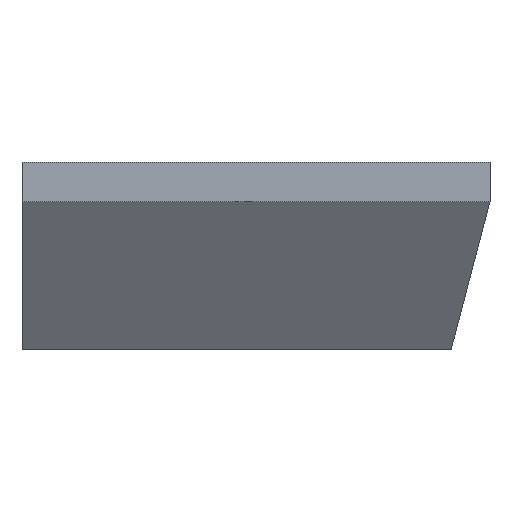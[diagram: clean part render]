
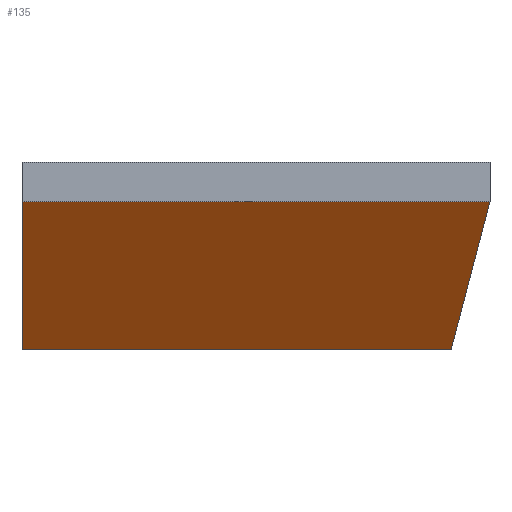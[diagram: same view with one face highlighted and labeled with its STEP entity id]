
A CAD part, front view. The second image highlights one B-rep face of the part: STEP entity #135.
In plain terms, the highlighted planar face has unit normal (0, -0.819, -0.574).
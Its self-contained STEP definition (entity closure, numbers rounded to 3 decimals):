
#21 = EDGE_CURVE('',#22,#24,#26,.T.);
#22 = VERTEX_POINT('',#23);
#23 = CARTESIAN_POINT('',(0.,0.,9.488));
#24 = VERTEX_POINT('',#25);
#25 = CARTESIAN_POINT('',(30.,0.,9.488));
#26 = SURFACE_CURVE('',#27,(#31,#42),.PCURVE_S1.);
#27 = LINE('',#28,#29);
#28 = CARTESIAN_POINT('',(-12.5,0.,9.488));
#29 = VECTOR('',#30,1.);
#30 = DIRECTION('',(1.,0.,0.));
#31 = PCURVE('',#32,#37);
#32 = PLANE('',#33);
#33 = AXIS2_PLACEMENT_3D('',#34,#35,#36);
#34 = CARTESIAN_POINT('',(0.,0.,0.));
#35 = DIRECTION('',(0.,1.,0.));
#36 = DIRECTION('',(1.,0.,0.));
#37 = DEFINITIONAL_REPRESENTATION('',(#38),#41);
#38 = B_SPLINE_CURVE_WITH_KNOTS('',1,(#39,#40),.UNSPECIFIED.,.F.,.F.,(2,
    2),(12.5,42.5),.PIECEWISE_BEZIER_KNOTS.);
#39 = CARTESIAN_POINT('',(0.,-9.488));
#40 = CARTESIAN_POINT('',(30.,-9.488));
#41 = ( GEOMETRIC_REPRESENTATION_CONTEXT(2) 
PARAMETRIC_REPRESENTATION_CONTEXT() REPRESENTATION_CONTEXT('2D SPACE',''
  ) );
#42 = PCURVE('',#43,#48);
#43 = PLANE('',#44);
#44 = AXIS2_PLACEMENT_3D('',#45,#46,#47);
#45 = CARTESIAN_POINT('',(-25.,-6.39,18.616));
#46 = DIRECTION('',(0.,0.819,0.573));
#47 = DIRECTION('',(0.,0.573,-0.819));
#48 = DEFINITIONAL_REPRESENTATION('',(#49),#52);
#49 = B_SPLINE_CURVE_WITH_KNOTS('',1,(#50,#51),.UNSPECIFIED.,.F.,.F.,(2,
    2),(12.5,42.5),.PIECEWISE_BEZIER_KNOTS.);
#50 = CARTESIAN_POINT('',(11.143,-25.));
#51 = CARTESIAN_POINT('',(11.143,-55.));
#52 = ( GEOMETRIC_REPRESENTATION_CONTEXT(2) 
PARAMETRIC_REPRESENTATION_CONTEXT() REPRESENTATION_CONTEXT('2D SPACE',''
  ) );
#70 = PLANE('',#71);
#71 = AXIS2_PLACEMENT_3D('',#72,#73,#74);
#72 = CARTESIAN_POINT('',(0.,80.,0.));
#73 = DIRECTION('',(1.,0.,-0.));
#74 = DIRECTION('',(0.,-1.,0.));
#124 = PLANE('',#125);
#125 = AXIS2_PLACEMENT_3D('',#126,#127,#128);
#126 = CARTESIAN_POINT('',(30.,0.,0.));
#127 = DIRECTION('',(-0.936,-0.351,0.));
#128 = DIRECTION('',(-0.351,0.936,0.));
#135 = ADVANCED_FACE('',(#136),#43,.F.);
#136 = FACE_BOUND('',#137,.F.);
#137 = EDGE_LOOP('',(#138,#139,#160,#186));
#138 = ORIENTED_EDGE('',*,*,#21,.T.);
#139 = ORIENTED_EDGE('',*,*,#140,.T.);
#140 = EDGE_CURVE('',#24,#141,#143,.T.);
#141 = VERTEX_POINT('',#142);
#142 = CARTESIAN_POINT('',(27.51,6.641,0.));
#143 = SURFACE_CURVE('',#144,(#148,#154),.PCURVE_S1.);
#144 = LINE('',#145,#146);
#145 = CARTESIAN_POINT('',(29.131,2.318,6.176)
  );
#146 = VECTOR('',#147,1.);
#147 = DIRECTION('',(-0.21,0.561,-0.801));
#148 = PCURVE('',#43,#149);
#149 = DEFINITIONAL_REPRESENTATION('',(#150),#153);
#150 = B_SPLINE_CURVE_WITH_KNOTS('',1,(#151,#152),.UNSPECIFIED.,.F.,.F.,
  (2,2),(-4.134,7.712),.PIECEWISE_BEZIER_KNOTS.);
#151 = CARTESIAN_POINT('',(11.143,-55.));
#152 = CARTESIAN_POINT('',(22.724,-52.51));
#153 = ( GEOMETRIC_REPRESENTATION_CONTEXT(2) 
PARAMETRIC_REPRESENTATION_CONTEXT() REPRESENTATION_CONTEXT('2D SPACE',''
  ) );
#154 = PCURVE('',#124,#155);
#155 = DEFINITIONAL_REPRESENTATION('',(#156),#159);
#156 = B_SPLINE_CURVE_WITH_KNOTS('',1,(#157,#158),.UNSPECIFIED.,.F.,.F.,
  (2,2),(-4.134,7.712),.PIECEWISE_BEZIER_KNOTS.);
#157 = CARTESIAN_POINT('',(0.,-9.488));
#158 = CARTESIAN_POINT('',(7.093,0.));
#159 = ( GEOMETRIC_REPRESENTATION_CONTEXT(2) 
PARAMETRIC_REPRESENTATION_CONTEXT() REPRESENTATION_CONTEXT('2D SPACE',''
  ) );
#160 = ORIENTED_EDGE('',*,*,#161,.T.);
#161 = EDGE_CURVE('',#141,#162,#164,.T.);
#162 = VERTEX_POINT('',#163);
#163 = CARTESIAN_POINT('',(0.,6.641,0.));
#164 = SURFACE_CURVE('',#165,(#169,#175),.PCURVE_S1.);
#165 = LINE('',#166,#167);
#166 = CARTESIAN_POINT('',(-8.07,6.641,
    0.));
#167 = VECTOR('',#168,1.);
#168 = DIRECTION('',(-1.,0.,0.));
#169 = PCURVE('',#43,#170);
#170 = DEFINITIONAL_REPRESENTATION('',(#171),#174);
#171 = B_SPLINE_CURVE_WITH_KNOTS('',1,(#172,#173),.UNSPECIFIED.,.F.,.F.,
  (2,2),(-38.07,-8.07),.PIECEWISE_BEZIER_KNOTS.);
#172 = CARTESIAN_POINT('',(22.724,-55.));
#173 = CARTESIAN_POINT('',(22.724,-25.));
#174 = ( GEOMETRIC_REPRESENTATION_CONTEXT(2) 
PARAMETRIC_REPRESENTATION_CONTEXT() REPRESENTATION_CONTEXT('2D SPACE',''
  ) );
#175 = PCURVE('',#176,#181);
#176 = PLANE('',#177);
#177 = AXIS2_PLACEMENT_3D('',#178,#179,#180);
#178 = CARTESIAN_POINT('',(8.86,33.86,0.));
#179 = DIRECTION('',(0.,0.,1.));
#180 = DIRECTION('',(1.,0.,-0.));
#181 = DEFINITIONAL_REPRESENTATION('',(#182),#185);
#182 = B_SPLINE_CURVE_WITH_KNOTS('',1,(#183,#184),.UNSPECIFIED.,.F.,.F.,
  (2,2),(-38.07,-8.07),.PIECEWISE_BEZIER_KNOTS.);
#183 = CARTESIAN_POINT('',(21.14,-27.219));
#184 = CARTESIAN_POINT('',(-8.86,-27.219));
#185 = ( GEOMETRIC_REPRESENTATION_CONTEXT(2) 
PARAMETRIC_REPRESENTATION_CONTEXT() REPRESENTATION_CONTEXT('2D SPACE',''
  ) );
#186 = ORIENTED_EDGE('',*,*,#187,.T.);
#187 = EDGE_CURVE('',#162,#22,#188,.T.);
#188 = SURFACE_CURVE('',#189,(#193,#199),.PCURVE_S1.);
#189 = LINE('',#190,#191);
#190 = CARTESIAN_POINT('',(0.,12.188,-7.924));
#191 = VECTOR('',#192,1.);
#192 = DIRECTION('',(0.,-0.573,0.819));
#193 = PCURVE('',#43,#194);
#194 = DEFINITIONAL_REPRESENTATION('',(#195),#198);
#195 = B_SPLINE_CURVE_WITH_KNOTS('',1,(#196,#197),.UNSPECIFIED.,.F.,.F.,
  (2,2),(9.672,21.253),.PIECEWISE_BEZIER_KNOTS.);
#196 = CARTESIAN_POINT('',(22.724,-25.));
#197 = CARTESIAN_POINT('',(11.143,-25.));
#198 = ( GEOMETRIC_REPRESENTATION_CONTEXT(2) 
PARAMETRIC_REPRESENTATION_CONTEXT() REPRESENTATION_CONTEXT('2D SPACE',''
  ) );
#199 = PCURVE('',#70,#200);
#200 = DEFINITIONAL_REPRESENTATION('',(#201),#204);
#201 = B_SPLINE_CURVE_WITH_KNOTS('',1,(#202,#203),.UNSPECIFIED.,.F.,.F.,
  (2,2),(9.672,21.253),.PIECEWISE_BEZIER_KNOTS.);
#202 = CARTESIAN_POINT('',(73.359,0.));
#203 = CARTESIAN_POINT('',(80.,-9.488));
#204 = ( GEOMETRIC_REPRESENTATION_CONTEXT(2) 
PARAMETRIC_REPRESENTATION_CONTEXT() REPRESENTATION_CONTEXT('2D SPACE',''
  ) );
